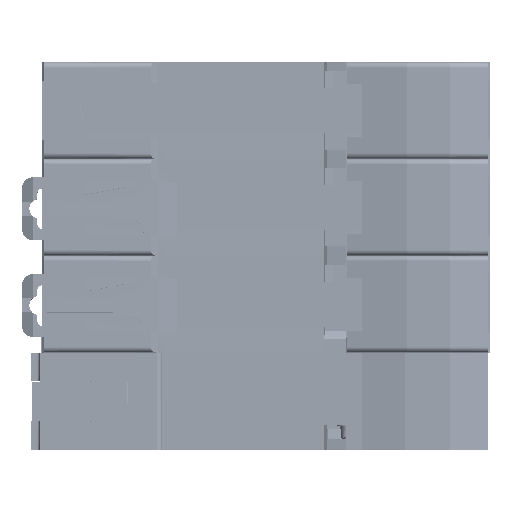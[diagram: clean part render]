
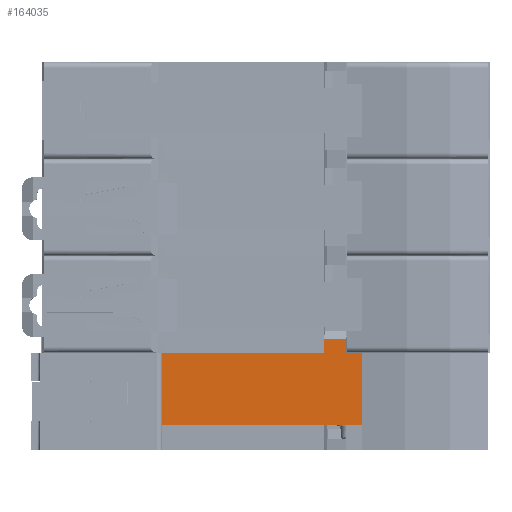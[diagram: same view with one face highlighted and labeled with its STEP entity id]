
A CAD part, front view. The second image highlights one B-rep face of the part: STEP entity #164035.
In plain terms, the highlighted planar face has unit normal (0, -1, 0) as drawn and (0, 1, 0) by its records, which use the part's own axes.
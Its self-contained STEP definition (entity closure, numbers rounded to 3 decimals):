
#301 = DIRECTION ( 'NONE',  ( 0., 0., 1. ) ) ;
#594 = EDGE_CURVE ( 'NONE', #137034, #107180, #166359, .T. ) ;
#7596 = LINE ( 'NONE', #60605, #129463 ) ;
#10609 = LINE ( 'NONE', #196141, #31506 ) ;
#24812 = EDGE_CURVE ( 'NONE', #107180, #184177, #10609, .T. ) ;
#26844 = LINE ( 'NONE', #75964, #190299 ) ;
#30129 = VERTEX_POINT ( 'NONE', #63603 ) ;
#30630 = CARTESIAN_POINT ( 'NONE',  ( 6.996, 27., 0. ) ) ;
#30898 = DIRECTION ( 'NONE',  ( 0., 0., 1. ) ) ;
#31506 = VECTOR ( 'NONE', #30898, 1000. ) ;
#31808 = VECTOR ( 'NONE', #140773, 1000. ) ;
#36123 = ORIENTED_EDGE ( 'NONE', *, *, #58404, .T. ) ;
#40489 = VERTEX_POINT ( 'NONE', #186872 ) ;
#42412 = VECTOR ( 'NONE', #301, 1000. ) ;
#43057 = CARTESIAN_POINT ( 'NONE',  ( 22., 27., 0. ) ) ;
#43930 = DIRECTION ( 'NONE',  ( 1., 0., 0. ) ) ;
#44084 = EDGE_CURVE ( 'NONE', #213674, #78428, #7596, .T. ) ;
#45235 = CARTESIAN_POINT ( 'NONE',  ( 22., 27., 8.9 ) ) ;
#46140 = LINE ( 'NONE', #59607, #90194 ) ;
#50963 = ORIENTED_EDGE ( 'NONE', *, *, #100377, .T. ) ;
#57158 = ORIENTED_EDGE ( 'NONE', *, *, #86509, .T. ) ;
#58404 = EDGE_CURVE ( 'NONE', #138474, #40489, #26844, .T. ) ;
#59607 = CARTESIAN_POINT ( 'NONE',  ( 19.201, 27., 0. ) ) ;
#60605 = CARTESIAN_POINT ( 'NONE',  ( -14.25, 27., 13.1 ) ) ;
#61141 = CARTESIAN_POINT ( 'NONE',  ( 19.201, 27., 0. ) ) ;
#63220 = DIRECTION ( 'NONE',  ( -1., 0., 0. ) ) ;
#63603 = CARTESIAN_POINT ( 'NONE',  ( -14.25, 27., 0. ) ) ;
#65070 = VECTOR ( 'NONE', #94745, 1000. ) ;
#66956 = CARTESIAN_POINT ( 'NONE',  ( -14.25, 27., 0. ) ) ;
#68776 = VECTOR ( 'NONE', #108787, 1000. ) ;
#71725 = CARTESIAN_POINT ( 'NONE',  ( 15.138, 27., -2.5 ) ) ;
#75578 = CARTESIAN_POINT ( 'NONE',  ( -14.25, 27., 13.1 ) ) ;
#75964 = CARTESIAN_POINT ( 'NONE',  ( 22., 27., 0. ) ) ;
#77919 = CARTESIAN_POINT ( 'NONE',  ( -14.25, 27., 8.9 ) ) ;
#78428 = VERTEX_POINT ( 'NONE', #186761 ) ;
#82053 = ORIENTED_EDGE ( 'NONE', *, *, #170759, .T. ) ;
#82898 = VECTOR ( 'NONE', #140026, 1000. ) ;
#86509 = EDGE_CURVE ( 'NONE', #205681, #137034, #46140, .T. ) ;
#86928 = CARTESIAN_POINT ( 'NONE',  ( 19.201, 27., -2.5 ) ) ;
#88732 = CARTESIAN_POINT ( 'NONE',  ( -14.25, 27., -2.5 ) ) ;
#89719 = DIRECTION ( 'NONE',  ( 0., 0., -1. ) ) ;
#90194 = VECTOR ( 'NONE', #192198, 1000. ) ;
#94745 = DIRECTION ( 'NONE',  ( -1., 0., 0. ) ) ;
#95799 = ORIENTED_EDGE ( 'NONE', *, *, #594, .T. ) ;
#98599 = EDGE_LOOP ( 'NONE', ( #50963, #57158, #95799, #126727, #82053, #115772, #107199, #117742, #166121, #36123 ) ) ;
#100377 = EDGE_CURVE ( 'NONE', #40489, #205681, #156756, .T. ) ;
#107180 = VERTEX_POINT ( 'NONE', #71725 ) ;
#107199 = ORIENTED_EDGE ( 'NONE', *, *, #196803, .T. ) ;
#108260 = PLANE ( 'NONE',  #118225 ) ;
#108787 = DIRECTION ( 'NONE',  ( 0., 0., 1. ) ) ;
#109502 = CARTESIAN_POINT ( 'NONE',  ( -14.25, 27., 0. ) ) ;
#109760 = LINE ( 'NONE', #66956, #42412 ) ;
#110390 = DIRECTION ( 'NONE',  ( 0., 1., 0. ) ) ;
#115772 = ORIENTED_EDGE ( 'NONE', *, *, #140398, .T. ) ;
#117742 = ORIENTED_EDGE ( 'NONE', *, *, #44084, .T. ) ;
#118225 = AXIS2_PLACEMENT_3D ( 'NONE', #142915, #110390, #158844 ) ;
#126727 = ORIENTED_EDGE ( 'NONE', *, *, #24812, .T. ) ;
#129463 = VECTOR ( 'NONE', #43930, 1000. ) ;
#137034 = VERTEX_POINT ( 'NONE', #86928 ) ;
#137793 = VERTEX_POINT ( 'NONE', #77919 ) ;
#138474 = VERTEX_POINT ( 'NONE', #45235 ) ;
#140026 = DIRECTION ( 'NONE',  ( 0., 0., -1. ) ) ;
#140398 = EDGE_CURVE ( 'NONE', #30129, #137793, #146467, .T. ) ;
#140773 = DIRECTION ( 'NONE',  ( -1., 0., 0. ) ) ;
#142915 = CARTESIAN_POINT ( 'NONE',  ( -14.25, 27., 0. ) ) ;
#146467 = LINE ( 'NONE', #109502, #68776 ) ;
#153300 = CARTESIAN_POINT ( 'NONE',  ( 15.138, 27., 0. ) ) ;
#156756 = LINE ( 'NONE', #30630, #185278 ) ;
#158844 = DIRECTION ( 'NONE',  ( 1., 0., 0. ) ) ;
#161655 = EDGE_CURVE ( 'NONE', #78428, #138474, #170975, .T. ) ;
#162003 = CARTESIAN_POINT ( 'NONE',  ( 6.996, 27., 0. ) ) ;
#164035 = ADVANCED_FACE ( 'NONE', ( #165033 ), #108260, .T. ) ;
#165033 = FACE_OUTER_BOUND ( 'NONE', #98599, .T. ) ;
#166121 = ORIENTED_EDGE ( 'NONE', *, *, #161655, .T. ) ;
#166359 = LINE ( 'NONE', #88732, #31808 ) ;
#170759 = EDGE_CURVE ( 'NONE', #184177, #30129, #171168, .T. ) ;
#170975 = LINE ( 'NONE', #43057, #82898 ) ;
#171168 = LINE ( 'NONE', #162003, #65070 ) ;
#184177 = VERTEX_POINT ( 'NONE', #153300 ) ;
#185278 = VECTOR ( 'NONE', #63220, 1000. ) ;
#186761 = CARTESIAN_POINT ( 'NONE',  ( 22., 27., 13.1 ) ) ;
#186872 = CARTESIAN_POINT ( 'NONE',  ( 22., 27., 0. ) ) ;
#190299 = VECTOR ( 'NONE', #89719, 1000. ) ;
#192198 = DIRECTION ( 'NONE',  ( 0., 0., -1. ) ) ;
#196141 = CARTESIAN_POINT ( 'NONE',  ( 15.138, 27., 0. ) ) ;
#196803 = EDGE_CURVE ( 'NONE', #137793, #213674, #109760, .T. ) ;
#205681 = VERTEX_POINT ( 'NONE', #61141 ) ;
#213674 = VERTEX_POINT ( 'NONE', #75578 ) ;
